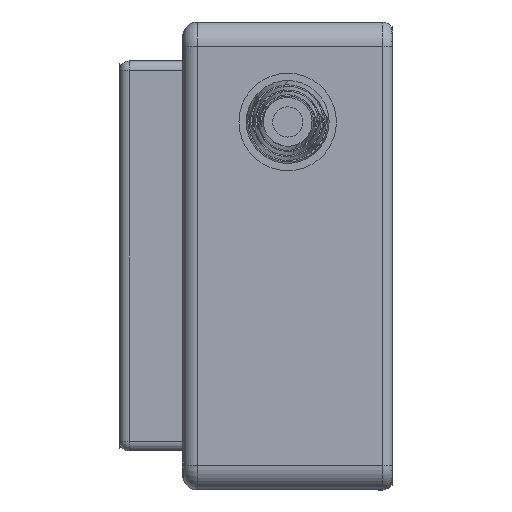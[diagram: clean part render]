
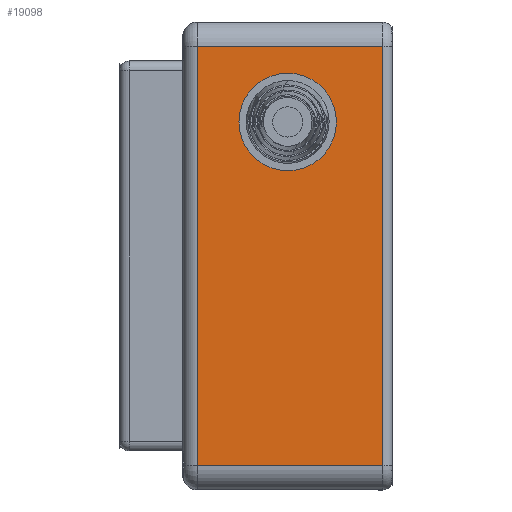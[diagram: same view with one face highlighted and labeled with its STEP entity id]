
A CAD part, left-side view. The second image highlights one B-rep face of the part: STEP entity #19098.
In plain terms, the highlighted planar face has unit normal (-1, 0, 0).
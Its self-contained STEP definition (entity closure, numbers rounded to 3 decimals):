
#471 = EDGE_CURVE ( 'NONE', #1151, #18596, #2830, .T. ) ;
#580 = DIRECTION ( 'NONE',  ( -1., 0., 0. ) ) ;
#765 = LINE ( 'NONE', #22686, #17121 ) ;
#885 = AXIS2_PLACEMENT_3D ( 'NONE', #4179, #580, #16748 ) ;
#1106 = VERTEX_POINT ( 'NONE', #21811 ) ;
#1151 = VERTEX_POINT ( 'NONE', #14610 ) ;
#1591 = DIRECTION ( 'NONE',  ( 0., 0., -1. ) ) ;
#2193 = AXIS2_PLACEMENT_3D ( 'NONE', #5577, #12898, #13254 ) ;
#2474 = ORIENTED_EDGE ( 'NONE', *, *, #14225, .T. ) ;
#2496 = VECTOR ( 'NONE', #1591, 1000. ) ;
#2830 = LINE ( 'NONE', #6424, #2496 ) ;
#3553 = VERTEX_POINT ( 'NONE', #10934 ) ;
#4179 = CARTESIAN_POINT ( 'NONE',  ( -65., 18.5, -27.5 ) ) ;
#4214 = DIRECTION ( 'NONE',  ( 0., 0., -1. ) ) ;
#4558 = VECTOR ( 'NONE', #12380, 1000. ) ;
#5296 = EDGE_CURVE ( 'NONE', #3553, #16495, #9832, .T. ) ;
#5577 = CARTESIAN_POINT ( 'NONE',  ( -65., 18.5, -27.5 ) ) ;
#5612 = ORIENTED_EDGE ( 'NONE', *, *, #15860, .F. ) ;
#6078 = CARTESIAN_POINT ( 'NONE',  ( -65., 38., -43. ) ) ;
#6271 = DIRECTION ( 'NONE',  ( 0., 0., 1. ) ) ;
#6424 = CARTESIAN_POINT ( 'NONE',  ( -65., 38., 48. ) ) ;
#6872 = DIRECTION ( 'NONE',  ( 0., -1., 0. ) ) ;
#7065 = EDGE_CURVE ( 'NONE', #21073, #1106, #765, .T. ) ;
#8263 = FACE_BOUND ( 'NONE', #23535, .T. ) ;
#8420 = LINE ( 'NONE', #8771, #4558 ) ;
#8489 = EDGE_CURVE ( 'NONE', #1106, #1151, #8420, .T. ) ;
#8771 = CARTESIAN_POINT ( 'NONE',  ( -65., 40., 43. ) ) ;
#9832 = CIRCLE ( 'NONE', #2193, 10. ) ;
#10346 = EDGE_LOOP ( 'NONE', ( #19974, #2474, #22655, #18280 ) ) ;
#10363 = VECTOR ( 'NONE', #6872, 1000. ) ;
#10934 = CARTESIAN_POINT ( 'NONE',  ( -65., 18.5, -17.5 ) ) ;
#11397 = PLANE ( 'NONE',  #17777 ) ;
#11695 = CARTESIAN_POINT ( 'NONE',  ( -65., 0., -43. ) ) ;
#12274 = LINE ( 'NONE', #15973, #10363 ) ;
#12360 = CIRCLE ( 'NONE', #885, 10. ) ;
#12380 = DIRECTION ( 'NONE',  ( 0., 1., 0. ) ) ;
#12485 = CARTESIAN_POINT ( 'NONE',  ( -65., 18.5, -37.5 ) ) ;
#12898 = DIRECTION ( 'NONE',  ( -1., 0., 0. ) ) ;
#13254 = DIRECTION ( 'NONE',  ( 0., 0., -1. ) ) ;
#13328 = DIRECTION ( 'NONE',  ( 1., 0., 0. ) ) ;
#14225 = EDGE_CURVE ( 'NONE', #18596, #21073, #12274, .T. ) ;
#14610 = CARTESIAN_POINT ( 'NONE',  ( -65., 38., 43. ) ) ;
#15860 = EDGE_CURVE ( 'NONE', #16495, #3553, #12360, .T. ) ;
#15973 = CARTESIAN_POINT ( 'NONE',  ( -65., 40., -43. ) ) ;
#16495 = VERTEX_POINT ( 'NONE', #12485 ) ;
#16748 = DIRECTION ( 'NONE',  ( 0., 0., -1. ) ) ;
#17121 = VECTOR ( 'NONE', #6271, 1000. ) ;
#17138 = FACE_OUTER_BOUND ( 'NONE', #10346, .T. ) ;
#17777 = AXIS2_PLACEMENT_3D ( 'NONE', #18703, #13328, #4214 ) ;
#18280 = ORIENTED_EDGE ( 'NONE', *, *, #8489, .T. ) ;
#18596 = VERTEX_POINT ( 'NONE', #6078 ) ;
#18703 = CARTESIAN_POINT ( 'NONE',  ( -65., 40., 48. ) ) ;
#19098 = ADVANCED_FACE ( 'NONE', ( #8263, #17138 ), #11397, .F. ) ;
#19974 = ORIENTED_EDGE ( 'NONE', *, *, #471, .T. ) ;
#21073 = VERTEX_POINT ( 'NONE', #11695 ) ;
#21811 = CARTESIAN_POINT ( 'NONE',  ( -65., 0., 43. ) ) ;
#22655 = ORIENTED_EDGE ( 'NONE', *, *, #7065, .T. ) ;
#22686 = CARTESIAN_POINT ( 'NONE',  ( -65., 0., 48. ) ) ;
#23022 = ORIENTED_EDGE ( 'NONE', *, *, #5296, .F. ) ;
#23535 = EDGE_LOOP ( 'NONE', ( #5612, #23022 ) ) ;
